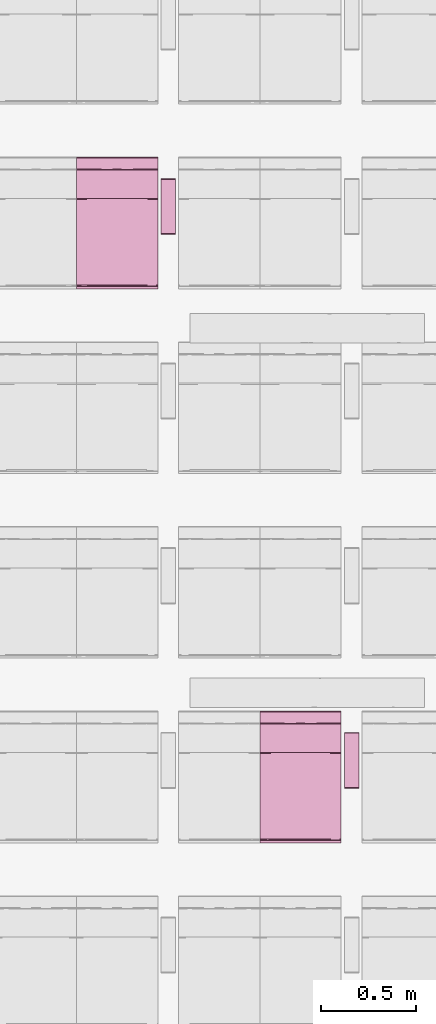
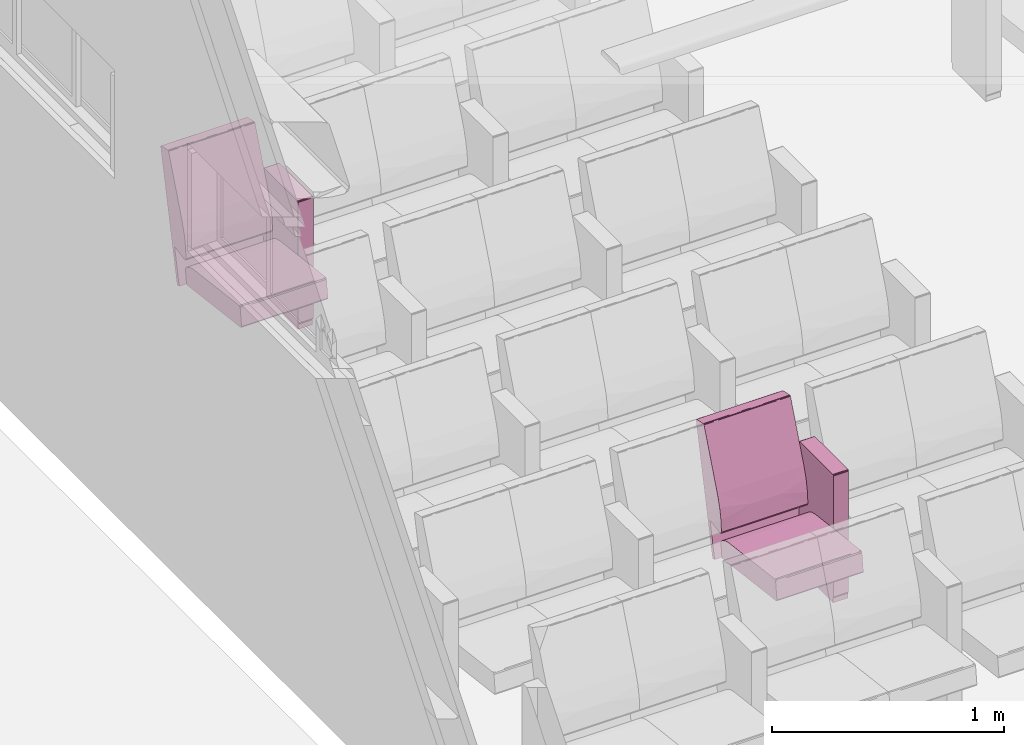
# One storey, part 100 of 155: 2 furnishings.
"""IFC2X3 building model written with IfcOpenShell, lengths in metres."""

import ifcopenshell
import ifcopenshell.guid

model = None  # the IFC model being written
_history = None  # IfcOwnerHistory: only IFC2X3 demands one
_inside = {}  # id of a spatial element -> (the spatial element, [elements in it])
_under = {}  # id of a project, library or spatial element -> (it, [spatial elements below it])
_declared = {}  # id of a project -> (the project, [libraries it declares])
_typed = {}  # id of a type object -> (the type object, [elements of that type])
_made_of = {}  # id of a material, layer set ... -> (it, [elements and type objects made of it])


def new_model(schema):
    """Start an empty IFC model of exactly this schema.

    Asked for "IFC4X3", IfcOpenShell would pick the latest addendum, in which some entities
    have other attributes; the version numbers below select the first issue.
    IFC2X3 requires an IfcOwnerHistory on every rooted entity: one is made here for all.
    """
    global model, _history
    if schema == "IFC4X3":
        model = ifcopenshell.file(schema_version=(4, 3, 0, 0))
    else:
        model = ifcopenshell.file(schema=schema)
    _inside.clear()
    _under.clear()
    _declared.clear()
    _typed.clear()
    _made_of.clear()
    _history = None
    if model.schema == "IFC2X3":
        org = make("IfcOrganization", Name="unknown")
        user = make(
            "IfcPersonAndOrganization",
            ThePerson=make("IfcPerson", FamilyName="unknown"),
            TheOrganization=org,
        )
        app = make(
            "IfcApplication",
            ApplicationDeveloper=org,
            Version="unknown",
            ApplicationFullName="unknown",
            ApplicationIdentifier="unknown",
        )
        _history = make(
            "IfcOwnerHistory",
            OwningUser=user,
            OwningApplication=app,
            ChangeAction="ADDED",
            CreationDate=0,
        )
    return model


def make(cls, **values):
    """One entity of the class cls with the attributes given. An attribute that is None is left unset."""
    return model.create_entity(
        cls, **{name: value for name, value in values.items() if value is not None}
    )


def entity(cls, *values):
    """Any entity or typed value of the class cls, its attributes in the order of the schema. None: left unset."""
    e = model.create_entity(cls)
    for i, value in enumerate(values):
        if value is not None:
            e[i] = value
    return e


def rooted(cls, **values):
    """An entity with a GlobalId (a new one), such as an element, a storey or a relation."""
    return make(cls, GlobalId=ifcopenshell.guid.new(), OwnerHistory=_history, **values)


def si_unit(unit_type, name, prefix=None):
    """IfcSIUnit, for example si_unit("LENGTHUNIT", "METRE", prefix="MILLI")."""
    return make("IfcSIUnit", UnitType=unit_type, Prefix=prefix, Name=name)


def converted_unit(unit_type, name, factor, base, dimensions=None, offset=None):
    """IfcConversionBasedUnit, such as the inch: factor (a typed value) times the base unit."""
    return make(
        "IfcConversionBasedUnit"
        if offset is None
        else "IfcConversionBasedUnitWithOffset",
        ConversionOffset=offset,
        Dimensions=None
        if dimensions is None
        else entity("IfcDimensionalExponents", *dimensions),
        UnitType=unit_type,
        Name=name,
        ConversionFactor=make(
            "IfcMeasureWithUnit", ValueComponent=factor, UnitComponent=base
        ),
    )


def derived_unit(unit_type, elements):
    """IfcDerivedUnit: a product of units, each with its exponent."""
    return make(
        "IfcDerivedUnit",
        Elements=[
            make("IfcDerivedUnitElement", Unit=unit, Exponent=power)
            for unit, power in elements
        ],
        UnitType=unit_type,
    )


def assignment(units):
    """IfcUnitAssignment: the units of a project."""
    return None if units is None else make("IfcUnitAssignment", Units=units)


def point(xyz):
    """IfcCartesianPoint."""
    return None if xyz is None else make("IfcCartesianPoint", Coordinates=xyz)


def direction(xyz):
    """IfcDirection."""
    return None if xyz is None else make("IfcDirection", DirectionRatios=xyz)


def frame(location, z_axis=None, x_axis=None):
    """IfcAxis2Placement3D, a coordinate frame: its origin and axes. An axis left out is left unset."""
    return make(
        "IfcAxis2Placement3D",
        Location=point(location),
        Axis=direction(z_axis),
        RefDirection=direction(x_axis),
    )


def origin():
    """The frame at (0, 0, 0) with its axes left unset."""
    return frame((0.0, 0.0, 0.0))


def place(relative_to, where):
    """IfcLocalPlacement: puts the frame where relative to a parent placement (None: the world)."""
    return make(
        "IfcLocalPlacement", PlacementRelTo=relative_to, RelativePlacement=where
    )


def context(
    kind, dimensions, precision=None, world=None, true_north=None, identifier=None
):
    """IfcGeometricRepresentationContext, for example the 3D "Model" context."""
    return make(
        "IfcGeometricRepresentationContext",
        ContextIdentifier=identifier,
        ContextType=kind,
        CoordinateSpaceDimension=dimensions,
        Precision=precision,
        WorldCoordinateSystem=world,
        TrueNorth=true_north,
    )


def subcontext(parent, identifier, kind, view, scale=None):
    """IfcGeometricRepresentationSubContext, for example "Body" below "Model"."""
    return make(
        "IfcGeometricRepresentationSubContext",
        ContextIdentifier=identifier,
        ContextType=kind,
        ParentContext=parent,
        TargetScale=scale,
        TargetView=view,
    )


def project(units=None, contexts=None):
    """IfcProject with its units and contexts."""
    return rooted(
        "IfcProject",
        Name="project",
        RepresentationContexts=contexts,
        UnitsInContext=assignment(units),
    )


def spatial(cls, under=None, at=None, **own):
    """A site, building, storey or space (cls), placed at a placement, below another one or the project."""
    s = rooted(cls, ObjectPlacement=at, **own)
    if under is not None:
        _under.setdefault(under.id(), (under, []))[1].append(s)
    return s


def faces_of(points, faces, orient=None, outer=None):
    """IfcFace entities. A face is a list of loops; a loop is a list of indices into points, from 0.

    orient and outer hold one flag for each loop. By default every Orientation is true, the
    first loop of a face is its IfcFaceOuterBound and the others are IfcFaceBound.
    """
    made = []
    for i, loops in enumerate(faces):
        bounds = []
        for j, loop in enumerate(loops):
            is_outer = j == 0 if outer is None else outer[i][j]
            bounds.append(
                make(
                    "IfcFaceOuterBound" if is_outer else "IfcFaceBound",
                    Bound=make("IfcPolyLoop", Polygon=[points[k] for k in loop]),
                    Orientation=True if orient is None else orient[i][j],
                )
            )
        made.append(make("IfcFace", Bounds=bounds))
    return made


def faceted_brep(points, faces, orient=None, outer=None, voids=None):
    """IfcFacetedBrep: a solid bounded by flat faces; with voids (closed shells), ...WithVoids."""
    shared = [point(p) for p in points]
    hull = make("IfcClosedShell", CfsFaces=faces_of(shared, faces, orient, outer))
    if voids is None:
        return make("IfcFacetedBrep", Outer=hull)
    return make(
        "IfcFacetedBrepWithVoids",
        Outer=hull,
        Voids=[
            make(cls, CfsFaces=faces_of(shared, fs, o, b)) for cls, fs, o, b in voids
        ],
    )


def shape(context_of_items, identifier, shape_type, items):
    """IfcShapeRepresentation: the items that make up one representation, for example the "Body"."""
    return make(
        "IfcShapeRepresentation",
        ContextOfItems=context_of_items,
        RepresentationIdentifier=identifier,
        RepresentationType=shape_type,
        Items=items,
    )


def source(mapping_origin, context_of_items, identifier, shape_type, items):
    """IfcRepresentationMap: a shape defined once, which mapped items show again and again."""
    return make(
        "IfcRepresentationMap",
        MappingOrigin=mapping_origin,
        MappedRepresentation=shape(context_of_items, identifier, shape_type, items),
    )


def transform(
    local_origin,
    x_axis=None,
    y_axis=None,
    z_axis=None,
    scale=None,
    scale2=None,
    scale3=None,
    uniform=True,
):
    """IfcCartesianTransformationOperator3D, or its non-uniform kind. x_axis, y_axis, z_axis: its Axis1, 2, 3."""
    if uniform:
        return make(
            "IfcCartesianTransformationOperator3D",
            Axis1=direction(x_axis),
            Axis2=direction(y_axis),
            LocalOrigin=point(local_origin),
            Scale=scale,
            Axis3=direction(z_axis),
        )
    return make(
        "IfcCartesianTransformationOperator3DnonUniform",
        Axis1=direction(x_axis),
        Axis2=direction(y_axis),
        LocalOrigin=point(local_origin),
        Scale=scale,
        Axis3=direction(z_axis),
        Scale2=scale2,
        Scale3=scale3,
    )


def mapped(mapping_source, mapping_target):
    """IfcMappedItem: shows the shape of a source again, moved by a transform."""
    return make(
        "IfcMappedItem", MappingSource=mapping_source, MappingTarget=mapping_target
    )


def material(Name=None, Category=None):
    """IfcMaterial."""
    return make("IfcMaterial", Name=Name, Category=Category)


def material_list(materials):
    """IfcMaterialList."""
    return make("IfcMaterialList", Materials=materials)


def made_of(thing, what):
    """Note that an element or type object is made of a material, layer set ...; save() writes the relation."""
    if what is not None:
        _made_of.setdefault(what.id(), (what, []))[1].append(thing)
    return thing


def type_object(cls, material=None, **own):
    """A type object (cls), such as IfcWallType, which elements share."""
    return made_of(rooted(cls, **own), material)


def type_shapes(of_type, sources):
    """Give a type object the sources (RepresentationMaps) that its elements show as mapped items."""
    of_type.RepresentationMaps = sources


def element(
    cls,
    number,
    at=None,
    inside=None,
    cuts=None,
    type_object=None,
    material=None,
    context=None,
    identifier="Body",
    shape_type=None,
    held_by="IfcProductDefinitionShape",
    body=None,
    shapes=None,
    **own,
):
    """One element of the class cls, such as IfcWall. Its Tag is "e" and its number.

    at: its placement. inside: the storey or other place that contains it. cuts: it is an
    opening in that element (IfcRelVoidsElement). A single representation is given by context,
    identifier, shape_type and body (its items); several are given by shapes. held_by: the class
    of the entity that holds the representations. save() writes the other relations.
    """
    e = rooted(cls, Tag="e%d" % number, ObjectPlacement=at, **own)
    if body is not None:
        shapes = [shape(context, identifier, shape_type, body)]
    if shapes is not None:
        e.Representation = make(held_by, Representations=shapes)
    if inside is not None:
        _inside.setdefault(inside.id(), (inside, []))[1].append(e)
    if cuts is not None:
        rooted(
            "IfcRelVoidsElement", RelatingBuildingElement=cuts, RelatedOpeningElement=e
        )
    if type_object is not None:
        _typed.setdefault(type_object.id(), (type_object, []))[1].append(e)
    return made_of(e, material)


def aggregate(whole, parts):
    """IfcRelAggregates: a whole, such as a stair, and the parts it consists of."""
    return rooted("IfcRelAggregates", RelatingObject=whole, RelatedObjects=parts)


def save(model, path):
    """Write the relations noted so far, then the file.

    IfcRelAggregates (storeys below a building ...), IfcRelContainedInSpatialStructure (elements
    in a storey), IfcRelDefinesByType, IfcRelAssociatesMaterial and IfcRelDeclares: one each for
    every whole, place, type object, material and project.
    """
    for whole, parts in _under.values():
        aggregate(whole, parts)
    for where, things in _inside.values():
        rooted(
            "IfcRelContainedInSpatialStructure",
            RelatedElements=things,
            RelatingStructure=where,
        )
    for kind, things in _typed.values():
        rooted("IfcRelDefinesByType", RelatedObjects=things, RelatingType=kind)
    for what, things in _made_of.values():
        rooted("IfcRelAssociatesMaterial", RelatedObjects=things, RelatingMaterial=what)
    for by, libraries in _declared.values():
        rooted("IfcRelDeclares", RelatingContext=by, RelatedDefinitions=libraries)
    model.write(path)


model = new_model("IFC2X3")

# Units and contexts
model_context = context("Model", 3, precision=1e-05, world=origin(), true_north=direction((6.12303176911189e-17, 1.0)))
body_context = subcontext(model_context, "Body", "Model", "MODEL_VIEW")
ifc_project = project(units=[si_unit("LENGTHUNIT", "METRE"), si_unit("AREAUNIT", "SQUARE_METRE"), si_unit("VOLUMEUNIT", "CUBIC_METRE"), converted_unit("PLANEANGLEUNIT", "DEGREE", entity("IfcRatioMeasure", 0.0174532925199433), si_unit("PLANEANGLEUNIT", "RADIAN"), dimensions=[0, 0, 0, 0, 0, 0, 0]), si_unit("MASSUNIT", "GRAM", prefix="KILO"), derived_unit("MASSDENSITYUNIT", [(si_unit("MASSUNIT", "GRAM", prefix="KILO"), 1), (si_unit("LENGTHUNIT", "METRE"), -3)]), si_unit("TIMEUNIT", "SECOND"), si_unit("FREQUENCYUNIT", "HERTZ"), si_unit("THERMODYNAMICTEMPERATUREUNIT", "DEGREE_CELSIUS"), derived_unit("THERMALTRANSMITTANCEUNIT", [(si_unit("MASSUNIT", "GRAM", prefix="KILO"), 1), (si_unit("THERMODYNAMICTEMPERATUREUNIT", "KELVIN"), -1), (si_unit("TIMEUNIT", "SECOND"), -3)]), derived_unit("VOLUMETRICFLOWRATEUNIT", [(si_unit("LENGTHUNIT", "METRE"), 3), (si_unit("TIMEUNIT", "SECOND"), -1)]), si_unit("ELECTRICCURRENTUNIT", "AMPERE"), si_unit("ELECTRICVOLTAGEUNIT", "VOLT"), si_unit("POWERUNIT", "WATT"), si_unit("FORCEUNIT", "NEWTON", prefix="KILO"), si_unit("ILLUMINANCEUNIT", "LUX"), si_unit("LUMINOUSFLUXUNIT", "LUMEN"), si_unit("LUMINOUSINTENSITYUNIT", "CANDELA"), derived_unit("USERDEFINED", [(si_unit("MASSUNIT", "GRAM", prefix="KILO"), -1), (si_unit("LENGTHUNIT", "METRE"), -2), (si_unit("TIMEUNIT", "SECOND"), 3), (si_unit("LUMINOUSFLUXUNIT", "LUMEN"), 1)]), derived_unit("LINEARVELOCITYUNIT", [(si_unit("LENGTHUNIT", "METRE"), 1), (si_unit("TIMEUNIT", "SECOND"), -1)]), si_unit("PRESSUREUNIT", "PASCAL"), derived_unit("USERDEFINED", [(si_unit("LENGTHUNIT", "METRE"), -2), (si_unit("MASSUNIT", "GRAM", prefix="KILO"), 1), (si_unit("TIMEUNIT", "SECOND"), -2)])], contexts=[model_context])

# Site, building, storey, space
site_placement = place(None, frame((26.9889013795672, -17.5624287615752, 0.0)))
site = spatial("IfcSite", under=ifc_project, at=site_placement, Name="Default", CompositionType="ELEMENT")
building_placement = place(site_placement, origin())
building = spatial("IfcBuilding", under=site, at=building_placement, Name="C. C. L. Monsenhor Antônio Sampaio", CompositionType="ELEMENT")
storey_placement = place(building_placement, frame((0.0, 0.0, 1.19999999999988)))
storey = spatial("IfcBuildingStorey", under=building, at=storey_placement, Name="Nível 1.2", CompositionType="ELEMENT", Elevation=1.19999999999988)
space_placement = place(storey_placement, origin())
space = spatial("IfcSpace", under=storey, at=space_placement, Name="94", CompositionType="ELEMENT", InteriorOrExteriorSpace="INTERNAL")

# Furnishings
ifc_material_1 = material(Name="V9 - V9 - Ecopelle_672_658")
ifc_material_2 = material(Name="V9 - V9 - RAL_9006_Grigio")
ifc_material_list_1 = material_list([ifc_material_1, ifc_material_2])
ifc_material_list_2 = material_list([ifc_material_1, ifc_material_2])
furniture_type = type_object("IfcFurnitureType", Name="Cadeira auditório", material=ifc_material_list_2)
shared_shape = source(origin(), body_context, "Body", "Brep", [
    faceted_brep([(0.405536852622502, -0.1075, 0.339809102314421), (0.410560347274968, -0.131924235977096, 0.34246450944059), (0.405536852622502, -0.156348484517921, 0.339809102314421), (0.41079981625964, -0.0179166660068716, 0.342749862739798), (0.410597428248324, -0.084060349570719, 0.342506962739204), (0.405536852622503, -0.0537499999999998, 0.339809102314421), (0.410248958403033, -0.173608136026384, 0.342130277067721), (0.405536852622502, -0.215, 0.339809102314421), (0.412515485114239, -0.143333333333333, 0.348529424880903), (0.412515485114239, -0.185674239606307, 0.348529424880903), (0.405536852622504, 0.1075, 0.33980910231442), (0.405536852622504, 0.156348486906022, 0.33980910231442), (0.410560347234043, 0.131924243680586, 0.342464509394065), (0.405536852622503, 0.0, 0.33980910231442), (0.411170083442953, 0.0341365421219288, 0.343251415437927), (0.41251548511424, 0.0, 0.348529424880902), (0.412515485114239, -0.0358333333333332, 0.348529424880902), (0.412515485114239, -0.0716666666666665, 0.348529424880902), (0.41251548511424, 0.143333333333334, 0.348529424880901), (0.41059742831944, 0.0840603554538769, 0.342506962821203), (0.405536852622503, 0.0537500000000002, 0.33980910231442), (0.410248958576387, 0.173608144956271, 0.342130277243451), (0.410799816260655, 0.215, 0.342749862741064), (0.412515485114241, 0.185674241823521, 0.348529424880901), (0.412515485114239, -0.215, 0.348529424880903), (0.410799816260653, -0.215, 0.342749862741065), (0.412515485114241, 0.215, 0.348529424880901), (0.41251548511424, 0.0716666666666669, 0.348529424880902), (0.405536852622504, 0.215, 0.33980910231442), (-0.0557900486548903, -0.215, 0.28268145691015), (-0.0557900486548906, -0.1881249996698, 0.282681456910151), (-0.0557900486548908, -0.161250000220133, 0.282681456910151), (-0.055790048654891, -0.134374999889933, 0.282681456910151), (-0.0557900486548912, -0.107499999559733, 0.282681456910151), (-0.0557900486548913, -0.0806250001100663, 0.282681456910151), (-0.0557900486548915, -0.0537499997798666, 0.282681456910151), (-0.0557900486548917, -0.0268749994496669, 0.282681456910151), (-0.0557900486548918, 0.0, 0.28268145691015), (-0.0557900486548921, 0.0268750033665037, 0.282681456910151), (-0.0557900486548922, 0.0537499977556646, 0.282681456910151), (-0.0557900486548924, 0.0806249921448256, 0.282681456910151), (-0.0557900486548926, 0.107499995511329, 0.282681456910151), (-0.0557900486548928, 0.138065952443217, 0.282681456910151), (-0.055790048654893, 0.168631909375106, 0.282681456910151), (-0.0557900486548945, 0.215, 0.28268145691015), (-0.0594787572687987, -0.0179017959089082, 0.283700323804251), (-0.0613666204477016, 0.0, 0.287029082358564), (-0.0594787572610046, 0.0152829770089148, 0.283700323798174), (-0.0594787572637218, -0.215, 0.283700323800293), (-0.0613666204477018, -0.215, 0.287029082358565), (-0.0613666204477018, -0.191815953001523, 0.287029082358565), (-0.0613666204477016, -0.030565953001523, 0.287029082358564), (-0.0593340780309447, -0.0671874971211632, 0.283591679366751), (-0.0593337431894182, 0.184174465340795, 0.283591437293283), (-0.0594787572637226, 0.215, 0.283700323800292), (-0.0593023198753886, 0.0940625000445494, 0.283568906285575), (-0.0613666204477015, 0.0611319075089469, 0.287029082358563), (-0.0613666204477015, 0.0916978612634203, 0.287029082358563), (-0.0613666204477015, 0.122263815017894, 0.287029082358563), (-0.0597338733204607, -0.147039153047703, 0.283913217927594), (-0.0613666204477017, -0.122263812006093, 0.287029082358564), (-0.059382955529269, -0.118123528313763, 0.28362747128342), (-0.0592501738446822, -0.180223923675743, 0.283532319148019), (-0.0613666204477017, -0.168631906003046, 0.287029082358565), (-0.0588783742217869, -0.0926899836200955, 0.283298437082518), (-0.0613666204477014, 0.168631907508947, 0.287029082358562), (-0.0613666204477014, 0.215, 0.287029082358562), (-0.0592576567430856, 0.123736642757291, 0.283537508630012), (-0.0594787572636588, 0.153348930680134, 0.283700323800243), (-0.0613666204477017, -0.0916978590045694, 0.287029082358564), (-0.0613666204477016, 0.0305659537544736, 0.287029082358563), (-0.059645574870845, 0.045848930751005, 0.283836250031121), (-0.0613666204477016, -0.0611319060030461, 0.287029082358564), (-0.0693403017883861, 0.143333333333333, 0.351419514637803), (-0.069340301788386, 0.215, 0.351419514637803), (-0.0693403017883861, -0.215, 0.351419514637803), (-0.0693403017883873, -0.143333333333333, 0.351419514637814), (-0.069340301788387, -0.0716666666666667, 0.351419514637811), (-0.0693403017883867, 0.0, 0.351419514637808), (-0.0693403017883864, 0.0716666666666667, 0.351419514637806), (-0.0653387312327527, -0.0126787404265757, 0.368680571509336), (-0.0645543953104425, -0.112272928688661, 0.369803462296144), (-0.0597085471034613, 0.0, 0.37476954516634), (-0.0655136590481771, 0.104400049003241, 0.368411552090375), (-0.0681665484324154, 0.0888707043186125, 0.36292533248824), (-0.0694879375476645, -0.0590582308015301, 0.356377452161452), (-0.0695056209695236, 0.125492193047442, 0.356093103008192), (-0.0597085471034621, 0.110316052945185, 0.374769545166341), (-0.0676206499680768, -0.215, 0.364371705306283), (-0.0672851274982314, -0.108066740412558, 0.365148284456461), (-0.0690003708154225, -0.132942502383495, 0.359900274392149), (-0.068624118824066, -0.215, 0.356813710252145), (-0.0686241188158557, 0.214999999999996, 0.356813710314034), (-0.0694502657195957, 0.0358333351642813, 0.356863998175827), (-0.0686999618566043, -0.035833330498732, 0.36116674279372), (-0.067620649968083, 0.214999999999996, 0.364371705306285), (-0.063664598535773, 0.214999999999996, 0.369570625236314), (-0.0597085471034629, 0.214999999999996, 0.374769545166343), (-0.0597085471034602, -0.110316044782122, 0.374769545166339), (-0.0636645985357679, -0.215, 0.36957062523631), (-0.0597085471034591, -0.215, 0.374769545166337), (-0.0018793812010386, -0.215, 0.398686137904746), (-0.0324117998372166, -0.0436847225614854, 0.39063968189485), (-0.0324117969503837, -0.215, 0.390639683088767), (-0.041847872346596, 0.0856576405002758, 0.386239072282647), (-0.00187938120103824, 0.102488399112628, 0.398686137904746), (-0.00187938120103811, 0.215, 0.398686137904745), (-0.0324117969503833, 0.215, 0.390639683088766), (-0.0219042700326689, 0.0570631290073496, 0.394412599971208), (-0.00187938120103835, 0.0, 0.398686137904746), (0.392202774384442, -0.215, 0.447486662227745), (0.392202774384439, -0.156349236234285, 0.447486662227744), (0.392202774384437, -0.107499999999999, 0.447486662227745), (0.392202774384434, -0.0537499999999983, 0.447486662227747), (0.392202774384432, 0.0, 0.447486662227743), (0.392202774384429, 0.0537500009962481, 0.44748666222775), (0.392202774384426, 0.107500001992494, 0.447486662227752), (0.392202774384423, 0.156349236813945, 0.447486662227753), (0.392202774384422, 0.215, 0.447486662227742), (0.397860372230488, 0.0827732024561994, 0.446039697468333), (0.401125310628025, 0.0976984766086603, 0.440530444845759), (0.398104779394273, 0.131924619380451, 0.445856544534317), (0.397373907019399, 0.173462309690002, 0.446363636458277), (0.401125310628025, 0.156349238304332, 0.440530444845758), (0.401125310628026, 0.215000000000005, 0.440530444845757), (0.398104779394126, 0.215000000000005, 0.445856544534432), (0.397860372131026, -0.0827731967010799, 0.446039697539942), (0.398104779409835, -0.131924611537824, 0.445856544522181), (0.398104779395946, -0.0268749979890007, 0.445856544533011), (0.398104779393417, 0.0237489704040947, 0.445856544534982), (0.401125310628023, -0.0488492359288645, 0.440530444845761), (0.401125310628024, 0.0488492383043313, 0.44053044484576), (0.398774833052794, -0.173462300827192, 0.445271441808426), (0.401125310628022, -0.0976984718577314, 0.440530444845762), (0.39810477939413, -0.215, 0.445856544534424), (0.401125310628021, -0.215, 0.440530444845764), (0.401125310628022, -0.156349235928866, 0.440530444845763), (0.401125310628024, 0.0, 0.44053044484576)], [[[0, 1, 2]], [[3, 4, 5]], [[2, 6, 7]], [[8, 9, 6]], [[10, 11, 12]], [[13, 3, 5]], [[3, 14, 15]], [[1, 4, 8]], [[6, 1, 8]], [[4, 3, 16]], [[16, 17, 8, 4]], [[12, 18, 19]], [[4, 1, 0]], [[20, 14, 13]], [[21, 22, 23]], [[15, 16, 3]], [[9, 24, 25]], [[26, 23, 22]], [[7, 6, 25]], [[12, 11, 21]], [[19, 14, 20]], [[4, 0, 5]], [[14, 27, 15]], [[13, 14, 3]], [[19, 18, 27]], [[19, 10, 12]], [[18, 21, 23]], [[10, 19, 20]], [[19, 27, 14]], [[2, 1, 6]], [[21, 11, 28]], [[25, 6, 9]], [[18, 12, 21]], [[22, 21, 28]], [[28, 11, 10, 20, 13, 5, 0, 2, 7, 29, 30, 31, 32, 33, 34, 35, 36, 37, 38, 39, 40, 41, 42, 43, 44]], [[45, 46, 47]], [[48, 49, 50]], [[51, 45, 52]], [[53, 54, 44]], [[55, 56, 57, 58]], [[59, 60, 61]], [[62, 63, 59]], [[34, 64, 52]], [[53, 65, 66]], [[41, 67, 42]], [[37, 36, 35, 45, 47, 38]], [[43, 42, 68]], [[29, 48, 30]], [[59, 31, 62]], [[62, 48, 50]], [[61, 69, 64]], [[65, 53, 68]], [[50, 63, 62]], [[62, 30, 48]], [[55, 58, 67]], [[32, 31, 59]], [[46, 70, 47]], [[65, 68, 58]], [[55, 40, 71]], [[70, 56, 71]], [[61, 33, 32]], [[59, 63, 60]], [[39, 38, 71, 40]], [[47, 71, 38]], [[51, 46, 45]], [[70, 71, 47]], [[71, 56, 55]], [[40, 55, 41]], [[67, 68, 42]], [[43, 68, 53]], [[43, 53, 44]], [[66, 54, 53]], [[68, 67, 58]], [[55, 67, 41]], [[72, 51, 52, 69]], [[62, 31, 30]], [[59, 61, 32]], [[35, 52, 45]], [[64, 34, 33]], [[34, 52, 35]], [[61, 60, 69]], [[52, 64, 69]], [[61, 64, 33]], [[73, 74, 66, 65, 58, 57, 56, 70, 46, 51, 72, 69, 60, 63, 50, 49, 75, 76, 77, 78, 79]], [[80, 81, 82]], [[83, 84, 80]], [[85, 78, 77, 76]], [[73, 79, 86]], [[80, 82, 83]], [[87, 83, 82]], [[88, 89, 90]], [[76, 75, 91]], [[92, 74, 73]], [[91, 90, 85]], [[80, 89, 81]], [[84, 93, 94]], [[84, 86, 93]], [[93, 78, 85]], [[73, 86, 92]], [[94, 93, 85]], [[95, 92, 84]], [[78, 93, 79]], [[80, 84, 94]], [[83, 96, 95]], [[94, 85, 90]], [[87, 97, 96]], [[98, 99, 100]], [[91, 85, 76]], [[94, 90, 89]], [[90, 91, 88]], [[89, 80, 94]], [[89, 99, 81]], [[89, 88, 99]], [[82, 81, 98]], [[81, 99, 98]], [[92, 86, 84]], [[93, 86, 79]], [[84, 83, 95]], [[96, 83, 87]], [[101, 102, 103]], [[104, 97, 87, 82]], [[105, 106, 107]], [[107, 108, 105]], [[109, 102, 101]], [[82, 102, 104]], [[102, 108, 104]], [[103, 102, 100]], [[97, 104, 107]], [[104, 108, 107]], [[102, 82, 98, 100]], [[105, 108, 109]], [[108, 102, 109]], [[109, 101, 110, 111, 112, 113, 114, 115, 116, 117, 118, 106, 105]], [[119, 120, 121]], [[122, 123, 124]], [[122, 125, 118]], [[126, 113, 112]], [[117, 121, 122]], [[121, 117, 116]], [[112, 111, 127]], [[113, 128, 129, 115, 114]], [[126, 130, 128]], [[129, 131, 119]], [[111, 132, 127]], [[132, 111, 110]], [[133, 126, 127]], [[123, 122, 121]], [[132, 134, 135]], [[127, 132, 136]], [[123, 121, 120]], [[127, 136, 133]], [[129, 128, 130, 137, 131]], [[112, 127, 126]], [[126, 133, 130]], [[119, 121, 116]], [[113, 126, 128]], [[119, 115, 129]], [[119, 116, 115]], [[120, 119, 131]], [[117, 122, 118]], [[124, 125, 122]], [[136, 132, 135]], [[110, 134, 132]], [[137, 130, 133, 136, 135, 24, 9, 8, 17, 16, 15, 27, 18, 23, 26, 124, 123, 120, 131]], [[44, 54, 66, 74, 92, 95, 96, 97, 107, 106, 118, 125, 124, 26, 22, 28]], [[75, 49, 48, 29, 7, 25, 24, 135, 134, 110, 101, 103, 100, 99, 88, 91]]]),
    faceted_brep([(0.119812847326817, 0.27, 0.674900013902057), (0.12334838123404, 0.259944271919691, 0.6734355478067), (0.123144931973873, 0.283972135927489, 0.673627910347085), (0.124812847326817, 0.27, 0.669900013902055), (0.119812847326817, 0.232, 0.674900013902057), (0.12334838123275, 0.232, 0.673435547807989), (0.124812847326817, 0.308, 0.669900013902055), (0.119812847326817, 0.308, 0.674900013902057), (0.124812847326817, 0.249888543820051, 0.669900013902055), (0.124812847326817, 0.232, 0.669900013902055), (0.12334838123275, 0.308, 0.673435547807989), (0.124812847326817, 0.232, 0.0349999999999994), (0.124812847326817, 0.27, 0.035), (0.124812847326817, 0.308, 0.035), (0.12334838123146, 0.25994427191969, 0.0314644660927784), (0.123540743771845, 0.283972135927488, 0.0316679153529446), (0.119812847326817, 0.27, 0.0300000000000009), (0.12334838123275, 0.232, 0.0314644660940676), (0.119812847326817, 0.308, 0.0300000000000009), (0.119812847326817, 0.249888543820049, 0.030000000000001), (0.119812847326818, 0.232, 0.030000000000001), (0.123348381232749, 0.308, 0.0314644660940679), (-0.167179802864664, 0.27, 0.0300000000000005), (-0.167179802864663, 0.308, 0.0300000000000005), (-0.167179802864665, 0.232, 0.0300000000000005), (-0.170715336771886, 0.25994427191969, 0.0314644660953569), (-0.17051188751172, 0.283972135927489, 0.0312721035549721), (-0.172179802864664, 0.27, 0.0350000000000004), (-0.170715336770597, 0.232, 0.0314644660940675), (-0.172179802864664, 0.308, 0.0350000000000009), (-0.172179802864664, 0.24988854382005, 0.0350000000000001), (-0.172179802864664, 0.232, 0.0349999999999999), (-0.170715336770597, 0.308, 0.0314644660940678), (-0.172179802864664, 0.308, 0.669900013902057), (-0.172179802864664, 0.232, 0.669900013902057), (-0.172179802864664, 0.27, 0.669900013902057), (-0.170715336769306, 0.259944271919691, 0.673435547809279), (-0.170907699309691, 0.283972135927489, 0.673232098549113), (-0.167179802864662, 0.27, 0.674900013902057), (-0.170715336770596, 0.232, 0.67343554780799), (-0.167179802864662, 0.308, 0.674900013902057), (-0.167179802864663, 0.249888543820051, 0.674900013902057), (-0.167179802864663, 0.232, 0.674900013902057), (-0.170715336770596, 0.308, 0.67343554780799)], [[[0, 1, 2]], [[3, 2, 1]], [[0, 4, 5, 1]], [[2, 3, 6]], [[0, 2, 7]], [[8, 3, 1, 5, 9]], [[7, 2, 10]], [[6, 10, 2]], [[9, 11, 12, 13, 6, 3, 8]], [[12, 14, 15]], [[16, 15, 14]], [[12, 11, 17, 14]], [[15, 16, 18]], [[12, 15, 13]], [[19, 16, 14, 17, 20]], [[13, 15, 21]], [[18, 21, 15]], [[22, 23, 18, 16, 19, 20, 24]], [[22, 25, 26]], [[27, 26, 25]], [[22, 24, 28, 25]], [[26, 27, 29]], [[22, 26, 23]], [[30, 27, 25, 28, 31]], [[23, 26, 32]], [[29, 32, 26]], [[33, 29, 27, 30, 31, 34, 35]], [[35, 36, 37]], [[38, 37, 36]], [[35, 34, 39, 36]], [[37, 38, 40]], [[35, 37, 33]], [[41, 38, 36, 39, 42]], [[33, 37, 43]], [[40, 43, 37]], [[0, 7, 40, 38, 41, 42, 4]], [[42, 39, 34, 31, 28, 24, 20, 17, 11, 9, 5, 4]], [[23, 32, 29, 33, 43, 40, 7, 10, 6, 13, 21, 18]]]),
    faceted_brep([(-0.0655618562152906, -0.215, 0.415143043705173), (-0.0744051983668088, -0.0524423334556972, 0.506888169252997), (-0.0695672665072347, -0.215, 0.476508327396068), (-0.0655618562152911, 0.0, 0.415143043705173), (-0.0744051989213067, 0.0780075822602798, 0.506888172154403), (-0.0655618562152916, 0.1075, 0.415143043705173), (-0.0655618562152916, 0.215, 0.415143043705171), (-0.0655618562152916, -0.1075, 0.415143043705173), (-0.0695672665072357, 0.215, 0.476508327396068), (-0.0811110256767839, 0.215, 0.536911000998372), (-0.0811110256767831, -0.215, 0.536911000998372), (-0.100016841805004, 0.0, 0.595428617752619), (-0.100016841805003, -0.215, 0.595428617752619), (-0.100016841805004, 0.215, 0.595428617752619), (-0.0792851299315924, -0.0716666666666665, 0.404772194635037), (-0.0792851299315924, 0.0, 0.404772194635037), (-0.0698317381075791, -0.0358333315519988, 0.406528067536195), (-0.0698317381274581, 0.215, 0.406528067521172), (-0.0792851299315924, 0.143333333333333, 0.404772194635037), (-0.0792851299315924, 0.215, 0.404772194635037), (-0.0698317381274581, -0.215, 0.406528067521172), (-0.0792851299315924, -0.215, 0.404772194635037), (-0.0792851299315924, -0.143333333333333, 0.404772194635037), (-0.0694171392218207, -0.140338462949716, 0.406857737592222), (-0.0708115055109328, 0.0356393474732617, 0.405868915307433), (-0.0703502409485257, 0.107500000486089, 0.406159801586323), (-0.0792851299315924, 0.0716666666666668, 0.404772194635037), (-0.163837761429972, 0.215, 0.420611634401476), (-0.163837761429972, -0.215, 0.420611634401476), (-0.123612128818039, -0.215, 0.235917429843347), (-0.123612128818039, 0.215, 0.235917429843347), (-0.142059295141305, -0.215, 0.231899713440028), (-0.142059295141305, 0.215, 0.231899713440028), (-0.235388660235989, -0.215, 0.652619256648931), (-0.235388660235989, 0.215, 0.652619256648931), (-0.28428001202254, 0.0, 0.873004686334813), (-0.284280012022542, 0.0268749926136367, 0.873004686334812), (-0.284280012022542, 0.0537499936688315, 0.873004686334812), (-0.284280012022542, 0.0806249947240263, 0.873004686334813), (-0.284280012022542, 0.107499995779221, 0.873004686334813), (-0.284280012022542, 0.134374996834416, 0.873004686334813), (-0.284280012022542, 0.161249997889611, 0.873004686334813), (-0.284280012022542, 0.191295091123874, 0.873004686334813), (-0.28428001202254, 0.215, 0.873004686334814), (-0.284280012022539, -0.215, 0.873004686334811), (-0.28428001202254, -0.191295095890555, 0.873004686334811), (-0.284280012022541, -0.161249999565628, 0.873004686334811), (-0.284280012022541, -0.134374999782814, 0.873004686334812), (-0.284280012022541, -0.1075, 0.873004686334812), (-0.284280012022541, -0.0806250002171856, 0.873004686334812), (-0.284280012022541, -0.0537500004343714, 0.873004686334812), (-0.284280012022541, -0.0268749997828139, 0.873004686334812), (-0.283504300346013, -0.0569644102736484, 0.877068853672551), (-0.283746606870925, -0.0872244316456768, 0.876674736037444), (-0.283641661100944, 0.12093750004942, 0.876855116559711), (-0.283567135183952, 0.15546176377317, 0.876973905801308), (-0.28330409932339, -0.185293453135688, 0.877344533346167), (-0.283567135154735, -0.155461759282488, 0.876973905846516), (-0.280514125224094, 0.0, 0.879190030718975), (-0.280514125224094, 0.0358333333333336, 0.879190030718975), (-0.283641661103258, 0.0136463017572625, 0.876855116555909), (-0.283641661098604, -0.0179166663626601, 0.876855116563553), (-0.280514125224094, -0.0358333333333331, 0.879190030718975), (-0.280514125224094, 0.1075, 0.879190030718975), (-0.280514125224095, 0.143333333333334, 0.879190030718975), (-0.283746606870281, 0.0872244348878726, 0.876674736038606), (-0.280514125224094, 0.071666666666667, 0.879190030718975), (-0.280514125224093, -0.1075, 0.879190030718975), (-0.280514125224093, -0.0716666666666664, 0.879190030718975), (-0.280514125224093, -0.143333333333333, 0.879190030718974), (-0.283641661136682, -0.120937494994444, 0.876855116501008), (-0.283641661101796, -0.215, 0.876855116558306), (-0.283641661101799, 0.215, 0.876855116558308), (-0.280514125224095, 0.167590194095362, 0.879190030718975), (-0.283304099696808, 0.18529345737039, 0.877344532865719), (-0.280514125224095, 0.215, 0.879190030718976), (-0.280514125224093, -0.167590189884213, 0.879190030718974), (-0.280514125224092, -0.215, 0.879190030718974), (-0.283504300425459, 0.0569644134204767, 0.8770688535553), (-0.221112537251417, -0.215, 0.892176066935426), (-0.221112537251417, -0.19181594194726, 0.892176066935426), (-0.221112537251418, -0.16124999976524, 0.892176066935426), (-0.221112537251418, -0.13437499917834, 0.892176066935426), (-0.221112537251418, -0.10749999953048, 0.892176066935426), (-0.221112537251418, -0.08062499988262, 0.892176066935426), (-0.221112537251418, -0.0537500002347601, 0.892176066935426), (-0.221112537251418, -0.0268750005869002, 0.892176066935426), (-0.221112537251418, 0.0, 0.892176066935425), (-0.221112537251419, 0.0268750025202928, 0.892176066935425), (-0.221112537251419, 0.053749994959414, 0.892176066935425), (-0.221112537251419, 0.0806249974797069, 0.892176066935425), (-0.221112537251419, 0.1075, 0.892176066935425), (-0.221112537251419, 0.134375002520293, 0.892176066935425), (-0.221112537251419, 0.161250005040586, 0.892176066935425), (-0.221112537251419, 0.191815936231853, 0.892176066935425), (-0.221112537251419, 0.215, 0.892176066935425), (-0.217722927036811, -0.0162353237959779, 0.891719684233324), (-0.215419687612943, -0.0358333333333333, 0.889191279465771), (-0.215419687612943, 0.0, 0.889191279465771), (-0.217722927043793, 0.0134375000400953, 0.891719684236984), (-0.217722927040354, 0.120937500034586, 0.89171968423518), (-0.217722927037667, 0.0912646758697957, 0.891719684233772), (-0.215419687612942, 0.0716666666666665, 0.88919127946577), (-0.215419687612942, 0.1075, 0.88919127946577), (-0.215419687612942, 0.143333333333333, 0.88919127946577), (-0.217722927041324, 0.215, 0.891719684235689), (-0.217722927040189, 0.182482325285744, 0.891719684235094), (-0.215419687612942, 0.168631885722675, 0.889191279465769), (-0.215419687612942, 0.191815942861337, 0.889191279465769), (-0.215419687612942, 0.215, 0.889191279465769), (-0.217722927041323, -0.215, 0.89171968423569), (-0.215419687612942, -0.215, 0.889191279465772), (-0.215419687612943, -0.191815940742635, 0.889191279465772), (-0.217722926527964, -0.190103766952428, 0.891719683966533), (-0.2179983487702, 0.039082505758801, 0.891853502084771), (-0.217816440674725, 0.0647800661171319, 0.891767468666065), (-0.217558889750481, 0.155982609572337, 0.891629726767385), (-0.217722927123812, -0.120937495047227, 0.891719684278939), (-0.217558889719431, -0.15598260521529, 0.891629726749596), (-0.215419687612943, -0.143333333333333, 0.889191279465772), (-0.215419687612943, -0.16863188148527, 0.889191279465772), (-0.215419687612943, -0.0716666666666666, 0.889191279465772), (-0.217816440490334, -0.0647800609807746, 0.891767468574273), (-0.217722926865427, -0.0912646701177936, 0.891719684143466), (-0.215419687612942, 0.0358333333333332, 0.889191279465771), (-0.215419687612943, -0.1075, 0.889191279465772), (-0.218257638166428, -0.0404491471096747, 0.891961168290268)], [[[0, 1, 2]], [[3, 4, 1]], [[4, 3, 5, 6]], [[1, 0, 7, 3]], [[8, 4, 6]], [[9, 4, 8]], [[1, 10, 2]], [[1, 11, 12]], [[9, 13, 4]], [[13, 11, 4]], [[10, 1, 12]], [[11, 1, 4]], [[14, 15, 16]], [[17, 18, 19]], [[20, 21, 22]], [[20, 23, 0]], [[3, 7, 16]], [[15, 24, 16]], [[24, 25, 5]], [[22, 23, 20]], [[7, 23, 16]], [[6, 5, 17]], [[16, 24, 3]], [[16, 23, 14]], [[23, 22, 14]], [[18, 25, 26]], [[18, 17, 25]], [[26, 24, 15]], [[7, 0, 23]], [[5, 25, 17]], [[25, 24, 26]], [[3, 24, 5]], [[27, 19, 18, 26, 15, 14, 22, 21, 28]], [[27, 28, 29, 30]], [[31, 32, 30, 29]], [[33, 34, 32, 31]], [[35, 36, 37, 38, 39, 40, 41, 42, 43, 34, 33, 44, 45, 46, 47, 48, 49, 50, 51]], [[52, 49, 53]], [[54, 55, 40]], [[46, 56, 57]], [[58, 59, 60, 61, 62]], [[54, 63, 64]], [[65, 66, 63]], [[67, 68, 53]], [[57, 69, 70]], [[45, 56, 46]], [[39, 54, 40]], [[45, 44, 71]], [[72, 43, 42]], [[35, 51, 61, 60, 36]], [[55, 73, 74]], [[39, 65, 54]], [[74, 73, 75]], [[67, 53, 70]], [[74, 42, 41]], [[64, 73, 55]], [[56, 76, 57]], [[74, 72, 42]], [[76, 56, 77]], [[56, 71, 77]], [[57, 76, 69]], [[48, 70, 53]], [[70, 48, 47]], [[60, 78, 36]], [[63, 54, 65]], [[71, 56, 45]], [[41, 55, 74]], [[72, 74, 75]], [[57, 70, 47]], [[47, 46, 57]], [[69, 67, 70]], [[50, 49, 52, 51]], [[52, 62, 61]], [[61, 51, 52]], [[55, 41, 40]], [[55, 54, 64]], [[66, 65, 78]], [[65, 38, 78]], [[52, 53, 68]], [[37, 36, 78, 38]], [[78, 59, 66]], [[59, 78, 60]], [[49, 48, 53]], [[65, 39, 38]], [[52, 68, 62]], [[79, 80, 81, 82, 83, 84, 85, 86, 87, 88, 89, 90, 91, 92, 93, 94, 95, 75, 73, 64, 63, 66, 59, 58, 62, 68, 67, 69, 76, 77]], [[96, 97, 98, 99]], [[100, 101, 102, 103, 104]], [[105, 106, 107, 108, 109]], [[110, 111, 112]], [[80, 110, 113]], [[89, 114, 115]], [[92, 116, 93]], [[94, 93, 106, 105, 95]], [[80, 79, 110]], [[92, 91, 90, 101, 100]], [[99, 88, 87, 86, 96]], [[104, 107, 116]], [[117, 83, 82]], [[117, 118, 119]], [[112, 120, 113]], [[118, 120, 119]], [[118, 81, 113]], [[116, 107, 106]], [[101, 90, 115]], [[121, 122, 123]], [[104, 116, 100]], [[110, 112, 113]], [[114, 99, 124]], [[92, 100, 116]], [[117, 125, 123]], [[82, 81, 118]], [[118, 117, 82]], [[83, 117, 123]], [[125, 117, 119]], [[102, 101, 115]], [[84, 83, 123]], [[123, 125, 121]], [[85, 84, 122]], [[89, 115, 90]], [[96, 86, 126]], [[124, 102, 115]], [[88, 99, 114]], [[99, 98, 124]], [[122, 121, 97]], [[126, 122, 97]], [[88, 114, 89]], [[115, 114, 124]], [[123, 122, 84]], [[126, 85, 122]], [[85, 126, 86]], [[96, 126, 97]], [[116, 106, 93]], [[80, 113, 81]], [[118, 113, 120]], [[12, 11, 13, 109, 108, 107, 104, 103, 102, 124, 98, 97, 121, 125, 119, 120, 112, 111]], [[30, 32, 34, 43, 72, 75, 95, 105, 109, 13, 9, 8, 6, 17, 19, 27]], [[77, 71, 44, 33, 31, 29, 28, 21, 20, 0, 2, 10, 12, 111, 110, 79]]]),
    faceted_brep([(0.120312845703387, 0.2335, 0.0), (0.120312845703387, 0.3065, 0.0), (0.120312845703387, 0.3065, 0.0260000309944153), (0.120312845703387, 0.27, 0.0260000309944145), (0.120312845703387, 0.249500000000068, 0.0260000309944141), (0.120312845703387, 0.2335, 0.0260000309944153), (-0.167687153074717, 0.2335, 0.0), (-0.167687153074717, 0.3065, 0.0), (-0.167687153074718, 0.3065, 0.0260000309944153), (-0.167687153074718, 0.2335, 0.0260000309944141), (-0.167687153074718, 0.27, 0.0260000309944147), (-0.163702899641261, 0.233500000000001, 0.0300000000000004), (-0.166521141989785, 0.257382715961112, 0.0288228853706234), (-0.166521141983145, 0.233500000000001, 0.0288228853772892), (-0.166521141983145, 0.3065, 0.0288228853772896), (-0.16652114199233, 0.279986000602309, 0.0288228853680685), (-0.163702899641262, 0.3065, 0.0300000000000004), (-0.163702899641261, 0.27, 0.0300000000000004), (0.116297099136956, 0.2335, 0.0300000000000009), (0.116297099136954, 0.270000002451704, 0.0300000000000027), (0.116297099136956, 0.3065, 0.0300000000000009), (0.119033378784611, 0.283124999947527, 0.0289323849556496), (0.119135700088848, 0.259750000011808, 0.0288340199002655), (0.1191357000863, 0.2335, 0.0288340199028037), (0.119135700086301, 0.3065, 0.0288340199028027)], [[[0, 1, 2, 3, 4, 5]], [[6, 7, 1, 0]], [[8, 7, 6, 9, 10]], [[11, 12, 13]], [[14, 15, 16]], [[17, 16, 15, 12, 11]], [[13, 12, 10, 9]], [[8, 15, 14]], [[12, 15, 8, 10]], [[16, 17, 11, 18, 19, 20]], [[3, 2, 21]], [[22, 19, 18, 23]], [[22, 23, 5, 4, 3]], [[20, 21, 24]], [[22, 3, 21]], [[19, 21, 20]], [[2, 24, 21]], [[19, 22, 21]], [[20, 24, 2, 1, 7, 8, 14, 16]], [[18, 11, 13, 9, 6, 0, 5, 23]]]),
])
type_shapes(furniture_type, [shared_shape])
furnishing_1_placement = place(space_placement, frame((-12.0259492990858, -15.3086263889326, 0.0), z_axis=(0.0, 0.0, 1.0), x_axis=(0.0, -1.0, 0.0)))
element("IfcFurnishingElement", 1, at=furnishing_1_placement, inside=space, type_object=furniture_type, material=ifc_material_list_1, Name="cadeira auditório pcd:Cadeira auditório", ObjectType="Cadeira auditório", context=body_context, shape_type="MappedRepresentation", body=[
    mapped(shared_shape, transform((0.0, 0.0, 0.0), scale=1.0)),
])
ifc_material_list_3 = material_list([ifc_material_1, ifc_material_2])
furnishing_2_placement = place(space_placement, frame((-12.9959492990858, -12.3788058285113, 0.0), z_axis=(0.0, 0.0, 1.0), x_axis=(0.0, -1.0, 0.0)))
element("IfcFurnishingElement", 2, at=furnishing_2_placement, inside=space, type_object=furniture_type, material=ifc_material_list_3, Name="cadeira auditório pcd:Cadeira auditório", ObjectType="Cadeira auditório", context=body_context, shape_type="MappedRepresentation", body=[
    mapped(shared_shape, transform((0.0, 0.0, 0.0), scale=1.0)),
])

save(model, "model.ifc")
